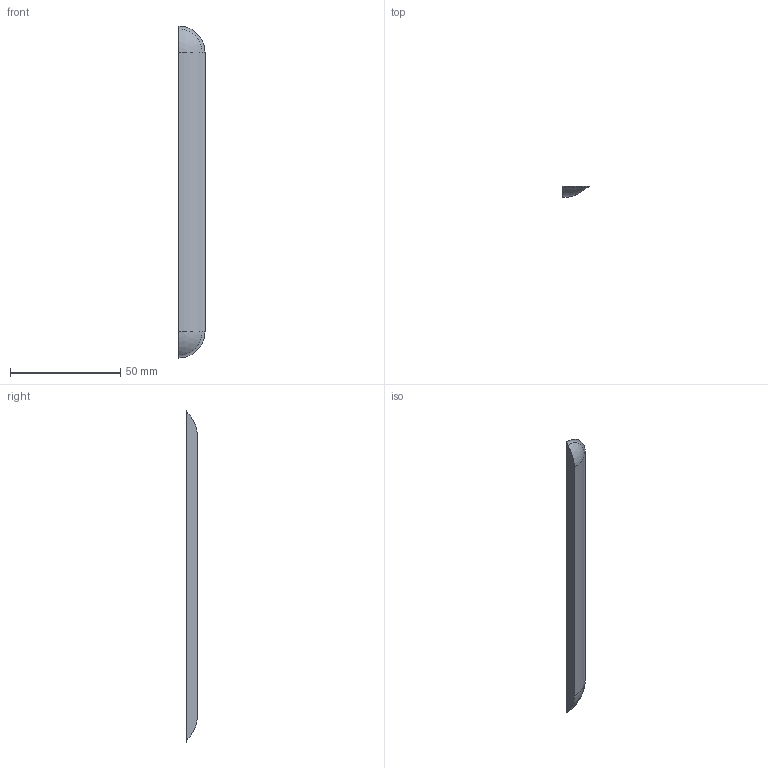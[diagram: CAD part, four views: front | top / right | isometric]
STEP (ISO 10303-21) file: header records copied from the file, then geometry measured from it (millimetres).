
FILE_DESCRIPTION (( 'STEP AP214' ), '1' );
FILE_NAME ('6inch louver.STEP', '2020-09-14T13:44:12', ( '' ), ( '' ), 'SwSTEP 2.0', 'SolidWorks 2020', '' );
FILE_SCHEMA (( 'AUTOMOTIVE_DESIGN' ));
Length unit declared in the file: inch
Products named in the file (1): 6inch louver
Bounding box: 11.82 x 4.83 x 150.64 mm (x, y, z)
Volume: 5141.3 mm3; surface area: 4322.3 mm2
Topology: 1 solids, 1 shells, 8 faces, 16 edges, 10 vertices
Faces by surface type: plane 2, cylinder 2, sphere 2, torus 2
Entity records: 269 total; most frequent: DIRECTION 46, CARTESIAN_POINT 35, ORIENTED_EDGE 32, AXIS2_PLACEMENT_3D 21, EDGE_CURVE 16, CIRCLE 12, VERTEX_POINT 10, FACE_OUTER_BOUND 8
